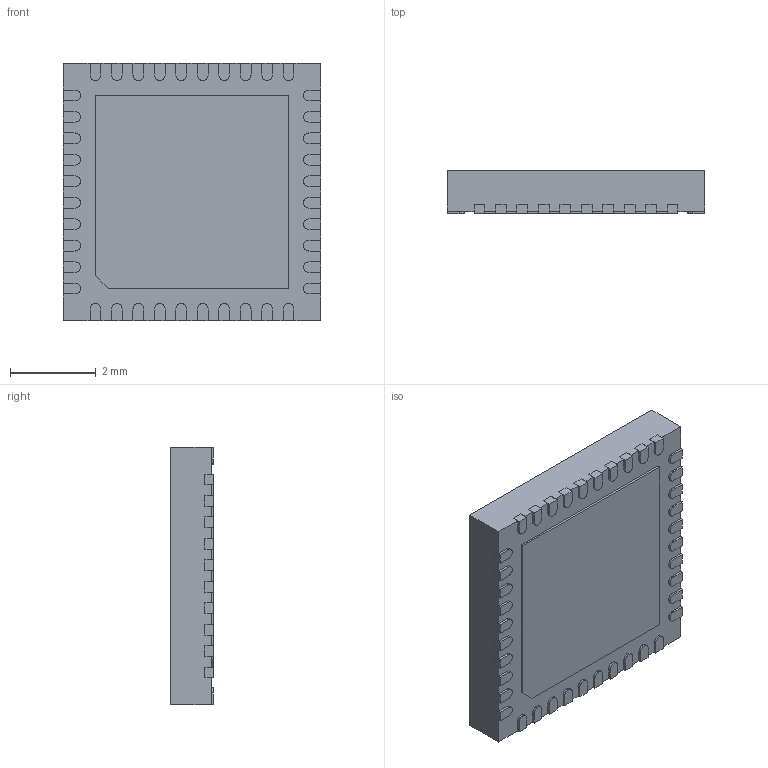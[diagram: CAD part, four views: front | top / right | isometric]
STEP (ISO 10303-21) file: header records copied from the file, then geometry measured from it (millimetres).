
FILE_DESCRIPTION (( 'STEP AP214' ), '1' );
FILE_NAME ('CC8530RHAT.STEP', '2025-09-01T17:23:57', ( '' ), ( '' ), 'SwSTEP 2.0', 'SolidWorks 2021', '' );
FILE_SCHEMA (( 'AUTOMOTIVE_DESIGN' ));
Length unit declared in the file: millimetre
Products named in the file (1): CC8530RHAT
Bounding box: 6 x 1 x 6 mm (x, y, z)
Volume: 35.4 mm3; surface area: 163.1 mm2
Topology: 43 solids, 43 shells, 446 faces, 1074 edges, 716 vertices
Faces by surface type: plane 342, cylinder 104
Entity records: 13318 total; most frequent: CARTESIAN_POINT 2237, DIRECTION 2176, ORIENTED_EDGE 2148, EDGE_CURVE 1074, VECTOR 866, LINE 866, VERTEX_POINT 716, AXIS2_PLACEMENT_3D 655
